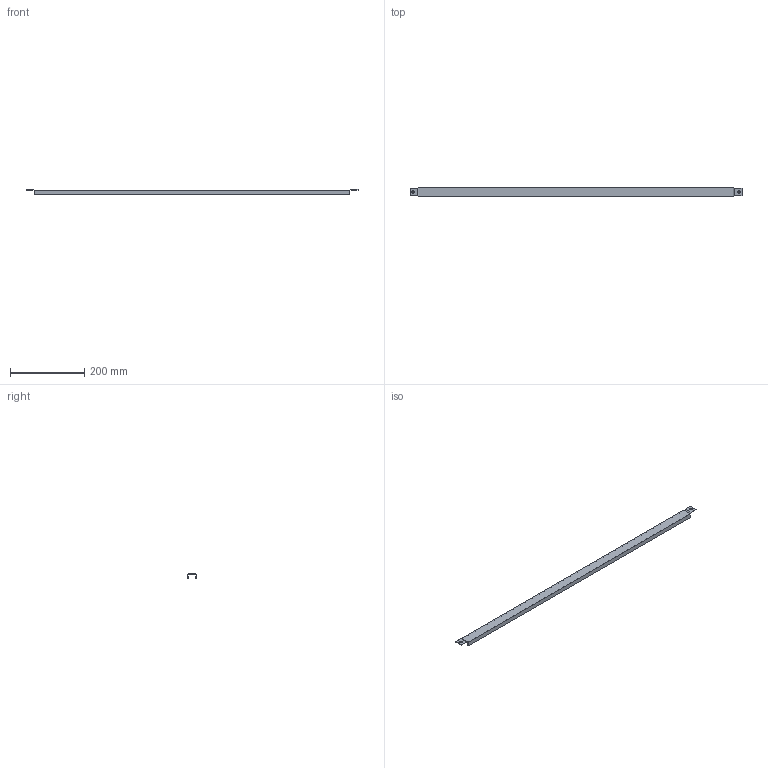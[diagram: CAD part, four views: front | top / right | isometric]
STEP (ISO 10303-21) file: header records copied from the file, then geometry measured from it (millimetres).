
FILE_DESCRIPTION( ( 'STEP AP214' ), '1' );
FILE_NAME( 'p:/temp/worker_137/temp/exporttempdir_4620_628_Ogw5I/format_0/DCP1002(0).stp', '2021-03-15T15:14:01', ( 'License CC BY-ND 4.0' ), ( 'CADENAS' ), ' ', 'PARTsolutions', ' ' );
FILE_SCHEMA( ( 'AUTOMOTIVE_DESIGN { 1 0 10303 214 1 1 1 1 }' ) );
Length unit declared in the file: millimetre
Products named in the file (1): _DCP1002(0)
Bounding box: 892 x 24.44 x 14.31 mm (x, y, z)
Volume: 76942.8 mm3; surface area: 80775.2 mm2
Topology: 1 solids, 1 shells, 28 faces, 74 edges, 48 vertices
Faces by surface type: plane 26, cylinder 2
Full cylindrical faces by diameter (mm): 6.5 x2
Entity records: 1088 total; most frequent: CARTESIAN_POINT 149, ORIENTED_EDGE 144, DIRECTION 134, EDGE_CURVE 72, LINE 68, VECTOR 68, VERTEX_POINT 48, EDGE_LOOP 34
